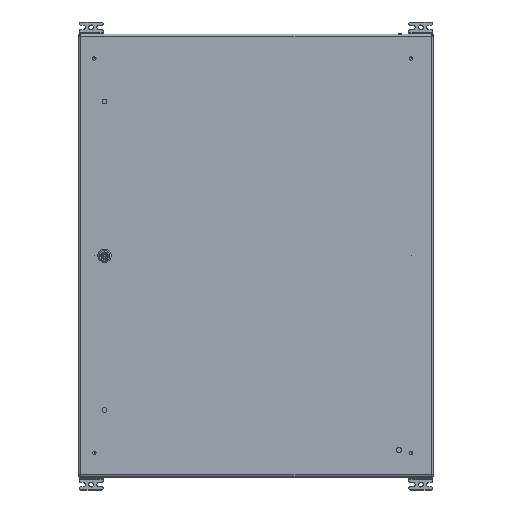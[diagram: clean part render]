
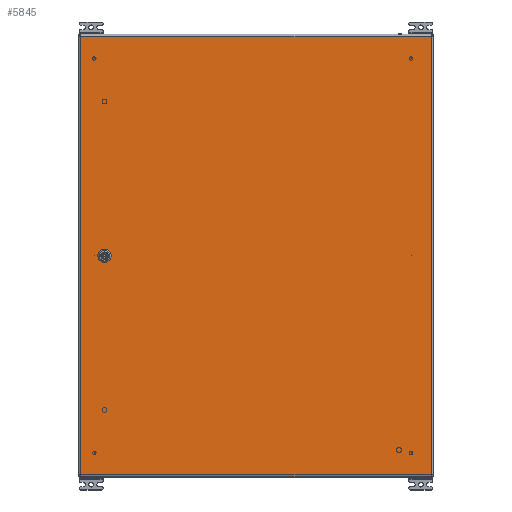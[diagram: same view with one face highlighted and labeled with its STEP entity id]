
A CAD part, top view. The second image highlights one B-rep face of the part: STEP entity #5845.
In plain terms, the highlighted planar face has unit normal (0, 0, 1).
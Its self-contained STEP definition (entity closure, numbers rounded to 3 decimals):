
#5845=ADVANCED_FACE('',(#14710,#14712),#14714,.T.);
#14710=FACE_BOUND('',#14711,.T.);
#14711=EDGE_LOOP('',(#40577,#40578,#40579,#40580));
#14712=FACE_BOUND('',#14713,.T.);
#14713=EDGE_LOOP('',(#40581,#40582,#40583,#40584,#40585,#40586,#40587,#40588));
#14714=PLANE('',#14715);
#14715=AXIS2_PLACEMENT_3D('',#14716,#14717,#14718);
#14716=CARTESIAN_POINT('',(0.,0.,1.5));
#14717=DIRECTION('',(0.,0.,1.));
#14718=DIRECTION('',(1.,0.,0.));
#40577=ORIENTED_EDGE('',*,*,#45796,.T.);
#40578=ORIENTED_EDGE('',*,*,#45797,.T.);
#40579=ORIENTED_EDGE('',*,*,#45798,.T.);
#40580=ORIENTED_EDGE('',*,*,#45799,.T.);
#40581=ORIENTED_EDGE('',*,*,#45755,.T.);
#40582=ORIENTED_EDGE('',*,*,#45770,.T.);
#40583=ORIENTED_EDGE('',*,*,#45768,.T.);
#40584=ORIENTED_EDGE('',*,*,#45766,.T.);
#40585=ORIENTED_EDGE('',*,*,#45764,.T.);
#40586=ORIENTED_EDGE('',*,*,#45762,.T.);
#40587=ORIENTED_EDGE('',*,*,#45760,.T.);
#40588=ORIENTED_EDGE('',*,*,#45758,.T.);
#45755=EDGE_CURVE('',#49740,#49741,#49742,.F.);
#45758=EDGE_CURVE('',#49745,#49740,#49746,.F.);
#45760=EDGE_CURVE('',#49748,#49745,#49749,.F.);
#45762=EDGE_CURVE('',#49751,#49748,#49752,.F.);
#45764=EDGE_CURVE('',#49754,#49751,#49755,.F.);
#45766=EDGE_CURVE('',#49757,#49754,#49758,.F.);
#45768=EDGE_CURVE('',#49760,#49757,#49761,.F.);
#45770=EDGE_CURVE('',#49741,#49760,#49763,.F.);
#45796=EDGE_CURVE('',#49804,#49805,#49806,.T.);
#45797=EDGE_CURVE('',#49805,#49807,#49808,.T.);
#45798=EDGE_CURVE('',#49807,#49809,#49810,.T.);
#45799=EDGE_CURVE('',#49809,#49804,#49811,.T.);
#49740=VERTEX_POINT('',#59377);
#49741=VERTEX_POINT('',#59378);
#49742=LINE('',#59379,#59380);
#49745=VERTEX_POINT('',#59388);
#49746=CIRCLE('',#59389,11.25);
#49748=VERTEX_POINT('',#59396);
#49749=LINE('',#59397,#59398);
#49751=VERTEX_POINT('',#59403);
#49752=CIRCLE('',#59404,11.25);
#49754=VERTEX_POINT('',#59411);
#49755=LINE('',#59412,#59413);
#49757=VERTEX_POINT('',#59418);
#49758=CIRCLE('',#59419,11.25);
#49760=VERTEX_POINT('',#59426);
#49761=LINE('',#59427,#59428);
#49763=CIRCLE('',#59433,11.25);
#49804=VERTEX_POINT('',#59534);
#49805=VERTEX_POINT('',#59535);
#49806=LINE('',#59536,#59537);
#49807=VERTEX_POINT('',#59539);
#49808=LINE('',#59540,#59541);
#49809=VERTEX_POINT('',#59543);
#49810=LINE('',#59544,#59545);
#49811=LINE('',#59547,#59548);
#59377=CARTESIAN_POINT('',(-489.545,-64.6,1.5));
#59378=CARTESIAN_POINT('',(-499.455,-64.6,1.5));
#59379=CARTESIAN_POINT('',(-499.455,-64.6,1.5));
#59380=VECTOR('',#59381,1.);
#59381=DIRECTION('',(1.,0.,0.));
#59388=CARTESIAN_POINT('',(-484.4,-59.455,1.5));
#59389=AXIS2_PLACEMENT_3D('',#59390,#59391,#59392);
#59390=CARTESIAN_POINT('',(-494.5,-54.5,1.5));
#59391=DIRECTION('',(0.,0.,1.));
#59392=DIRECTION('',(0.44,-0.898,0.));
#59396=CARTESIAN_POINT('',(-484.4,-49.545,1.5));
#59397=CARTESIAN_POINT('',(-484.4,-59.455,1.5));
#59398=VECTOR('',#59399,1.);
#59399=DIRECTION('',(0.,1.,0.));
#59403=CARTESIAN_POINT('',(-489.545,-44.4,1.5));
#59404=AXIS2_PLACEMENT_3D('',#59405,#59406,#59407);
#59405=CARTESIAN_POINT('',(-494.5,-54.5,1.5));
#59406=DIRECTION('',(0.,0.,1.));
#59407=DIRECTION('',(0.898,0.44,0.));
#59411=CARTESIAN_POINT('',(-499.455,-44.4,1.5));
#59412=CARTESIAN_POINT('',(-489.545,-44.4,1.5));
#59413=VECTOR('',#59414,1.);
#59414=DIRECTION('',(-1.,0.,0.));
#59418=CARTESIAN_POINT('',(-504.6,-49.545,1.5));
#59419=AXIS2_PLACEMENT_3D('',#59420,#59421,#59422);
#59420=CARTESIAN_POINT('',(-494.5,-54.5,1.5));
#59421=DIRECTION('',(0.,0.,1.));
#59422=DIRECTION('',(-0.44,0.898,0.));
#59426=CARTESIAN_POINT('',(-504.6,-59.455,1.5));
#59427=CARTESIAN_POINT('',(-504.6,-49.545,1.5));
#59428=VECTOR('',#59429,1.);
#59429=DIRECTION('',(0.,-1.,0.));
#59433=AXIS2_PLACEMENT_3D('',#59434,#59435,#59436);
#59434=CARTESIAN_POINT('',(-494.5,-54.5,1.5));
#59435=DIRECTION('',(0.,0.,1.));
#59436=DIRECTION('',(-0.898,-0.44,0.));
#59534=CARTESIAN_POINT('',(0.,-792.,1.5));
#59535=CARTESIAN_POINT('',(0.,0.,1.5));
#59536=CARTESIAN_POINT('',(0.,-792.,1.5));
#59537=VECTOR('',#59538,1.);
#59538=DIRECTION('',(0.,1.,0.));
#59539=CARTESIAN_POINT('',(-989.,0.,1.5));
#59540=CARTESIAN_POINT('',(0.,0.,1.5));
#59541=VECTOR('',#59542,1.);
#59542=DIRECTION('',(-1.,0.,0.));
#59543=CARTESIAN_POINT('',(-989.,-792.,1.5));
#59544=CARTESIAN_POINT('',(-989.,0.,1.5));
#59545=VECTOR('',#59546,1.);
#59546=DIRECTION('',(0.,-1.,0.));
#59547=CARTESIAN_POINT('',(-989.,-792.,1.5));
#59548=VECTOR('',#59549,1.);
#59549=DIRECTION('',(1.,0.,0.));
